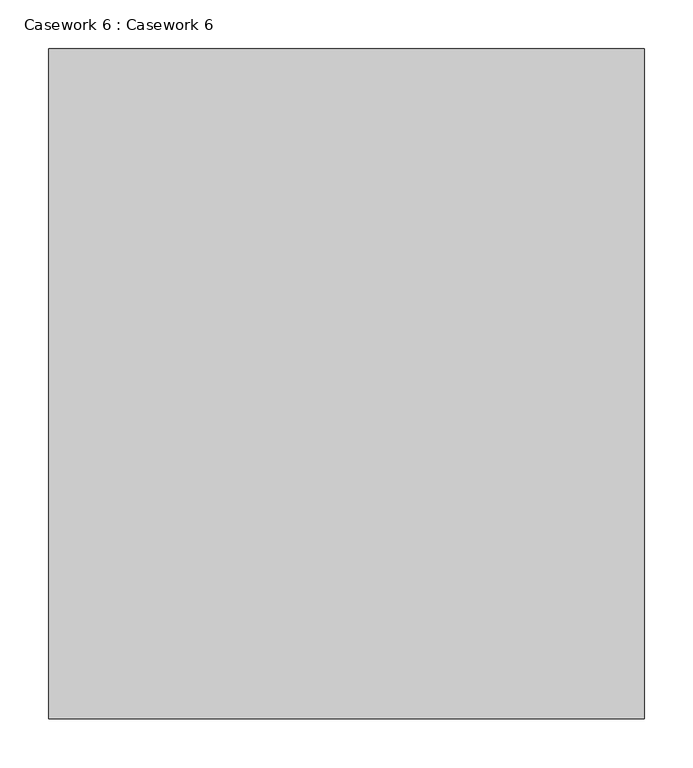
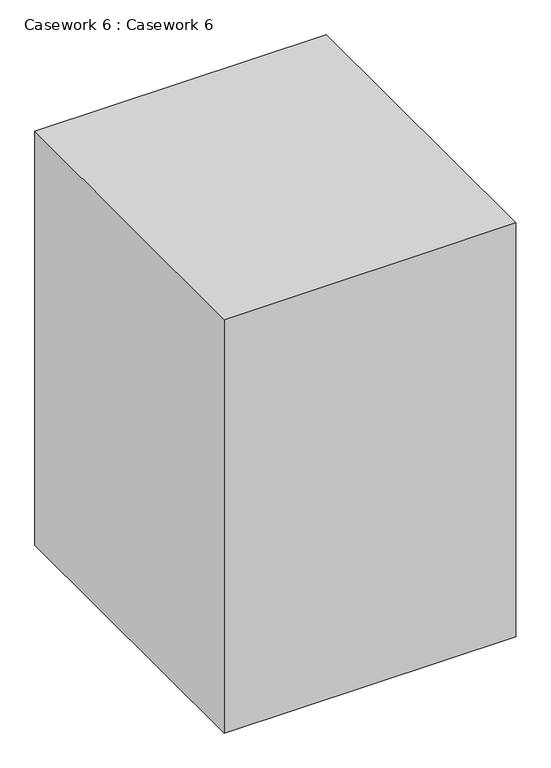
"""IFC4 building model written with IfcOpenShell, lengths in millimetres: furniture geometry, Casework 6 : Casework 6."""

from ifc_helpers import new_model, si_unit, frame, origin, place, context, project, spatial, polyline, outline, extrude, source, transform, mapped, element, save


def casework_6_casework_6_0ef7add9(model_context):
    return source(origin(), model_context, "Body", "SweptSolid", [
        extrude(outline(polyline([(6019.8, 12293.4947939), (6019.8, 11607.6947939), (5410.2, 11607.6947939), (5410.2, 12293.4947939), (6019.8, 12293.4947939)])), frame((0.0, 0.0, 3348.0), z_axis=(0.0, 0.0, 1.0), x_axis=(1.0, 0.0, 0.0)), (0.0, 0.0, 1.0), 914.4),
    ])


if __name__ == "__main__":
    model = new_model("IFC4")
    model_context = context("Model", 3, world=origin())
    ifc_project = project(units=[si_unit("LENGTHUNIT", "METRE", prefix="MILLI")], contexts=[model_context])
    site = spatial("IfcSite", under=ifc_project)
    building = spatial("IfcBuilding", under=site)
    placement = place(None, origin())
    casework_6_casework_6_shape = casework_6_casework_6_0ef7add9(model_context)
    element("IfcFurniture", 1, ObjectType="Casework 6 : Casework 6", at=placement, inside=building, context=model_context, shape_type="MappedRepresentation", body=[
        mapped(casework_6_casework_6_shape, transform((0.0, 0.0, 0.0), x_axis=(1.0, 0.0, 0.0), y_axis=(0.0, 1.0, 0.0), z_axis=(0.0, 0.0, 1.0))),
    ])
    save(model, "model.ifc")
